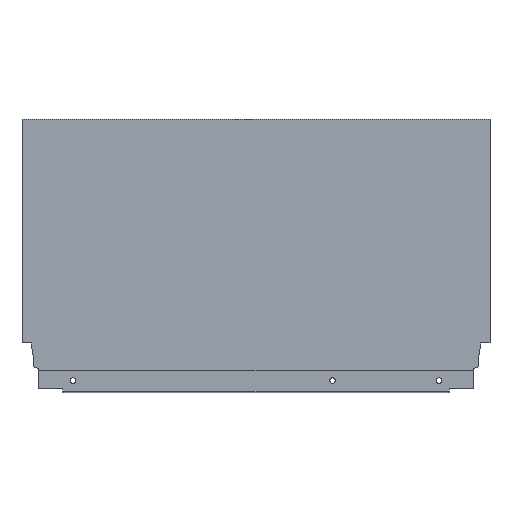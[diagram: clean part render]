
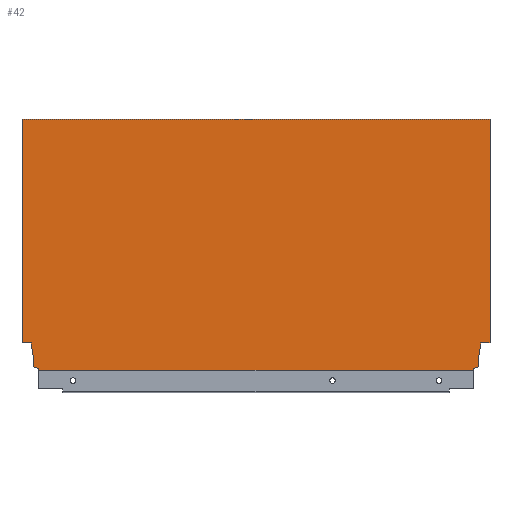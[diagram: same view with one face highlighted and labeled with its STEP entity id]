
A CAD part, top view. The second image highlights one B-rep face of the part: STEP entity #42.
In plain terms, the highlighted planar face has unit normal (0, 0, 1).
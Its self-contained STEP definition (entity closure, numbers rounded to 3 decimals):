
#42 = ADVANCED_FACE ( 'NONE', ( #1115 ), #655, .T. ) ;
#61 = EDGE_CURVE ( 'NONE', #875, #754, #1087, .T. ) ;
#113 = EDGE_CURVE ( 'NONE', #864, #862, #996, .T. ) ;
#116 = EDGE_CURVE ( 'NONE', #901, #758, #992, .T. ) ;
#122 = EDGE_CURVE ( 'NONE', #859, #874, #997, .T. ) ;
#123 = EDGE_CURVE ( 'NONE', #894, #869, #986, .T. ) ;
#124 = EDGE_CURVE ( 'NONE', #874, #861, #993, .T. ) ;
#148 = EDGE_CURVE ( 'NONE', #861, #758, #951, .T. ) ;
#149 = EDGE_CURVE ( 'NONE', #754, #864, #949, .T. ) ;
#156 = EDGE_CURVE ( 'NONE', #890, #894, #944, .T. ) ;
#166 = EDGE_CURVE ( 'NONE', #857, #859, #928, .T. ) ;
#226 = AXIS2_PLACEMENT_3D ( 'NONE', #656, #654, #312 ) ;
#235 = EDGE_CURVE ( 'NONE', #756, #869, #1318, .T. ) ;
#236 = EDGE_CURVE ( 'NONE', #862, #890, #1327, .T. ) ;
#238 = EDGE_CURVE ( 'NONE', #901, #875, #1350, .T. ) ;
#244 = EDGE_CURVE ( 'NONE', #756, #857, #1032, .T. ) ;
#264 = CARTESIAN_POINT ( 'NONE',  ( -353.996, 0., 7.5 ) ) ;
#271 = CARTESIAN_POINT ( 'NONE',  ( -367., 21.2, 7.5 ) ) ;
#274 = CARTESIAN_POINT ( 'NONE',  ( 0., 21.2, 7.5 ) ) ;
#312 = DIRECTION ( 'NONE',  ( 1., 0., 0. ) ) ;
#315 = CARTESIAN_POINT ( 'NONE',  ( -8.9, 10.765, 7.5 ) ) ;
#335 = CARTESIAN_POINT ( 'NONE',  ( 0., 196.7, 7.5 ) ) ;
#346 = CARTESIAN_POINT ( 'NONE',  ( -13.004, 1.146, 7.5 ) ) ;
#350 = CARTESIAN_POINT ( 'NONE',  ( -8.9, 2.64, 7.5 ) ) ;
#356 = CARTESIAN_POINT ( 'NONE',  ( -353.996, 1.146, 7.5 ) ) ;
#364 = CARTESIAN_POINT ( 'NONE',  ( -367., 196.7, 7.5 ) ) ;
#371 = CARTESIAN_POINT ( 'NONE',  ( -353.996, 1.146, 7.5 ) ) ;
#376 = DIRECTION ( 'NONE',  ( 0., 1., 0. ) ) ;
#399 = CARTESIAN_POINT ( 'NONE',  ( 0., 0., 7.5 ) ) ;
#402 = DIRECTION ( 'NONE',  ( 0., -1., 0. ) ) ;
#464 = DIRECTION ( 'NONE',  ( -0.174, 0.985, 0. ) ) ;
#467 = CARTESIAN_POINT ( 'NONE',  ( -13.004, 1.146, 7.5 ) ) ;
#468 = DIRECTION ( 'NONE',  ( 0., -1., 0. ) ) ;
#469 = DIRECTION ( 'NONE',  ( 0., 1., 0. ) ) ;
#472 = DIRECTION ( 'NONE',  ( -0.94, -0.342, 0. ) ) ;
#484 = CARTESIAN_POINT ( 'NONE',  ( -8.9, 2.64, 7.5 ) ) ;
#498 = CARTESIAN_POINT ( 'NONE',  ( -367., 0., 7.5 ) ) ;
#499 = DIRECTION ( 'NONE',  ( 0., -1., 0. ) ) ;
#500 = CARTESIAN_POINT ( 'NONE',  ( -358.1, 10.765, 7.5 ) ) ;
#502 = CARTESIAN_POINT ( 'NONE',  ( -359.94, 21.2, 7.5 ) ) ;
#506 = CARTESIAN_POINT ( 'NONE',  ( -358.1, 2.64, 7.5 ) ) ;
#514 = CARTESIAN_POINT ( 'NONE',  ( -359.94, 21.2, 7.5 ) ) ;
#515 = CARTESIAN_POINT ( 'NONE',  ( -358.1, 10.765, 7.5 ) ) ;
#527 = CARTESIAN_POINT ( 'NONE',  ( 0., 21.2, 7.5 ) ) ;
#529 = DIRECTION ( 'NONE',  ( -1., 0., 0. ) ) ;
#530 = CARTESIAN_POINT ( 'NONE',  ( -372., 21.2, 7.5 ) ) ;
#531 = DIRECTION ( 'NONE',  ( -1., 0., 0. ) ) ;
#609 = CARTESIAN_POINT ( 'NONE',  ( -367., 0., 7.5 ) ) ;
#610 = DIRECTION ( 'NONE',  ( 1., 0., 0. ) ) ;
#615 = CARTESIAN_POINT ( 'NONE',  ( -8.9, 10.765, 7.5 ) ) ;
#617 = DIRECTION ( 'NONE',  ( 0., -1., 0. ) ) ;
#619 = CARTESIAN_POINT ( 'NONE',  ( -367., 196.7, 7.5 ) ) ;
#621 = DIRECTION ( 'NONE',  ( 1., 0., 0. ) ) ;
#634 = CARTESIAN_POINT ( 'NONE',  ( -358.1, 2.64, 7.5 ) ) ;
#636 = DIRECTION ( 'NONE',  ( -0.94, 0.342, 0. ) ) ;
#654 = DIRECTION ( 'NONE',  ( 0., 0., 1. ) ) ;
#655 = PLANE ( 'NONE',  #226 ) ;
#656 = CARTESIAN_POINT ( 'NONE',  ( -367., 0., 7.5 ) ) ;
#693 = CARTESIAN_POINT ( 'NONE',  ( -7.06, 21.2, 7.5 ) ) ;
#705 = CARTESIAN_POINT ( 'NONE',  ( -7.06, 21.2, 7.5 ) ) ;
#707 = DIRECTION ( 'NONE',  ( -0.174, -0.985, 0. ) ) ;
#753 = CARTESIAN_POINT ( 'NONE',  ( -13.004, 0., 7.5 ) ) ;
#754 = VERTEX_POINT ( 'NONE', #274 ) ;
#756 = VERTEX_POINT ( 'NONE', #264 ) ;
#758 = VERTEX_POINT ( 'NONE', #271 ) ;
#857 = VERTEX_POINT ( 'NONE', #356 ) ;
#859 = VERTEX_POINT ( 'NONE', #506 ) ;
#861 = VERTEX_POINT ( 'NONE', #514 ) ;
#862 = VERTEX_POINT ( 'NONE', #315 ) ;
#864 = VERTEX_POINT ( 'NONE', #693 ) ;
#869 = VERTEX_POINT ( 'NONE', #753 ) ;
#874 = VERTEX_POINT ( 'NONE', #515 ) ;
#875 = VERTEX_POINT ( 'NONE', #335 ) ;
#890 = VERTEX_POINT ( 'NONE', #350 ) ;
#894 = VERTEX_POINT ( 'NONE', #346 ) ;
#901 = VERTEX_POINT ( 'NONE', #364 ) ;
#927 = VECTOR ( 'NONE', #636, 1000. ) ;
#928 = LINE ( 'NONE', #634, #927 ) ;
#942 = VECTOR ( 'NONE', #472, 1000. ) ;
#944 = LINE ( 'NONE', #484, #942 ) ;
#948 = VECTOR ( 'NONE', #529, 1000. ) ;
#949 = LINE ( 'NONE', #527, #948 ) ;
#950 = VECTOR ( 'NONE', #531, 1000. ) ;
#951 = LINE ( 'NONE', #530, #950 ) ;
#984 = VECTOR ( 'NONE', #464, 1000. ) ;
#985 = VECTOR ( 'NONE', #468, 1000. ) ;
#986 = LINE ( 'NONE', #467, #985 ) ;
#988 = VECTOR ( 'NONE', #469, 1000. ) ;
#991 = VECTOR ( 'NONE', #499, 1000. ) ;
#992 = LINE ( 'NONE', #498, #991 ) ;
#993 = LINE ( 'NONE', #502, #984 ) ;
#995 = VECTOR ( 'NONE', #707, 1000. ) ;
#996 = LINE ( 'NONE', #705, #995 ) ;
#997 = LINE ( 'NONE', #500, #988 ) ;
#1032 = LINE ( 'NONE', #371, #1369 ) ;
#1040 = VECTOR ( 'NONE', #617, 1000. ) ;
#1084 = VECTOR ( 'NONE', #402, 1000. ) ;
#1087 = LINE ( 'NONE', #399, #1084 ) ;
#1115 = FACE_OUTER_BOUND ( 'NONE', #1307, .T. ) ;
#1160 = ORIENTED_EDGE ( 'NONE', *, *, #123, .F. ) ;
#1162 = ORIENTED_EDGE ( 'NONE', *, *, #235, .T. ) ;
#1163 = ORIENTED_EDGE ( 'NONE', *, *, #244, .F. ) ;
#1164 = ORIENTED_EDGE ( 'NONE', *, *, #166, .F. ) ;
#1165 = ORIENTED_EDGE ( 'NONE', *, *, #122, .F. ) ;
#1166 = ORIENTED_EDGE ( 'NONE', *, *, #124, .F. ) ;
#1167 = ORIENTED_EDGE ( 'NONE', *, *, #148, .F. ) ;
#1168 = ORIENTED_EDGE ( 'NONE', *, *, #116, .T. ) ;
#1212 = ORIENTED_EDGE ( 'NONE', *, *, #149, .F. ) ;
#1214 = ORIENTED_EDGE ( 'NONE', *, *, #61, .F. ) ;
#1239 = ORIENTED_EDGE ( 'NONE', *, *, #156, .F. ) ;
#1240 = ORIENTED_EDGE ( 'NONE', *, *, #236, .F. ) ;
#1256 = VECTOR ( 'NONE', #610, 1000. ) ;
#1268 = ORIENTED_EDGE ( 'NONE', *, *, #113, .F. ) ;
#1307 = EDGE_LOOP ( 'NONE', ( #1168, #1167, #1166, #1165, #1164, #1163, #1162, #1160, #1239, #1240, #1268, #1212, #1214, #1321 ) ) ;
#1318 = LINE ( 'NONE', #609, #1256 ) ;
#1321 = ORIENTED_EDGE ( 'NONE', *, *, #238, .F. ) ;
#1327 = LINE ( 'NONE', #615, #1040 ) ;
#1350 = LINE ( 'NONE', #619, #1352 ) ;
#1352 = VECTOR ( 'NONE', #621, 1000. ) ;
#1369 = VECTOR ( 'NONE', #376, 1000. ) ;
